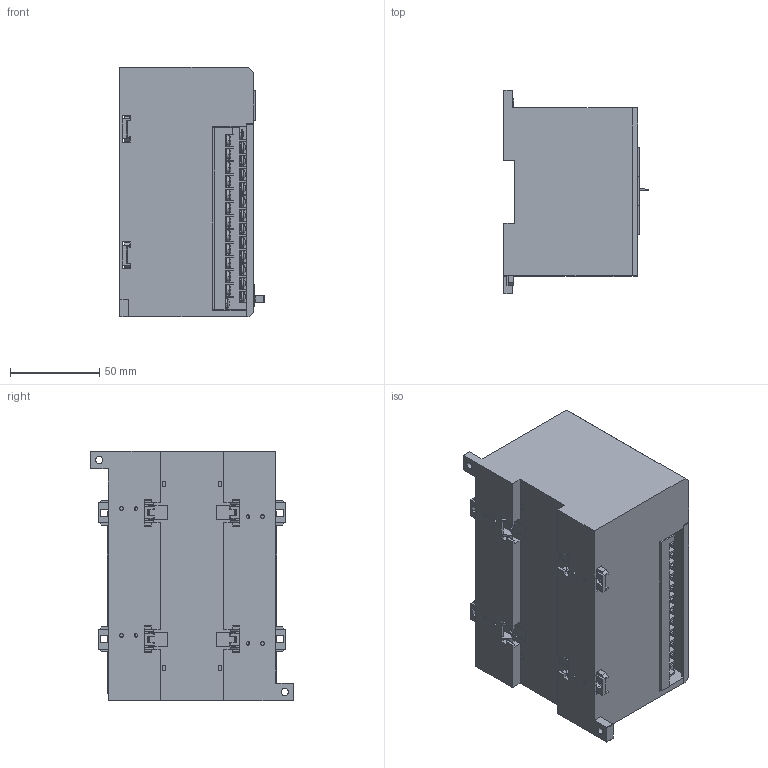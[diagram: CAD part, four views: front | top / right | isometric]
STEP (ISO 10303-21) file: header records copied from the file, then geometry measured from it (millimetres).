
FILE_DESCRIPTION (( 'STEP AP214' ), '1' );
FILE_NAME ('3D ìîäåëü ÏËÊ110-30_M02.STEP', '2016-07-19T20:22:33', ( '' ), ( '' ), 'SwSTEP 2.0', 'SolidWorks 2011', '' );
FILE_SCHEMA (( 'AUTOMOTIVE_DESIGN' ));
Length unit declared in the file: millimetre
Products named in the file (15): 3D ìîäåëü ÏËÊ110-30_M02; USB A; Ïåðåêëþ÷àòåëü; Êðûøêà ïðîçðà÷íàÿ ÏËÊ110-30_Ì02_í; RS-232_DEBUG; Êðûøêà ïðîçðà÷íàÿ ÏËÊ110-30_Ì02; ﾔ韭ﾌ02_00; Ethernet; USB ðîçåòêà; Ñáîðêà êëåììíàÿ êîëîäêà; pan head cross recess screw_iso_ISO 7045 - M3 x 20 - Z --- 20N; pan head cross recess screw_iso_ISO 7045 - M3 x 10 - Z --- 10N; Øàéáà êâàäðàòíàÿ Ì3; Êëåììíàÿ êîëîäêà; Êîðïóñ ÏËÊ110-30_Ì02
Assembly tree (66 placements, depth 3):
  3D ìîäåëü ÏËÊ110-30_M02
    Êîðïóñ ÏËÊ110-30_Ì02
    Ñáîðêà êëåììíàÿ êîëîäêà  x2
      Êëåììíàÿ êîëîäêà
      Øàéáà êâàäðàòíàÿ Ì3
      pan head cross recess screw_iso_ISO 7045 - M3 x 10 - Z --- 10N
      pan head cross recess screw_iso_ISO 7045 - M3 x 20 - Z --- 20N
    USB ðîçåòêà
    Ethernet
    ﾔ韭ﾌ02_00  x4
    Êðûøêà ïðîçðà÷íàÿ ÏËÊ110-30_Ì02
    RS-232_DEBUG  x2
    Êðûøêà ïðîçðà÷íàÿ ÏËÊ110-30_Ì02_í
    Ïåðåêëþ÷àòåëü
    USB A
Bounding box: 81 x 114 x 140 mm (x, y, z)
Volume: 966117.4 mm3; surface area: 145513.6 mm2
Topology: 115 solids, 115 shells, 6387 faces, 16023 edges, 10169 vertices
Faces by surface type: plane 3911, bspline 848, cylinder 742, cone 574, torus 208, sphere 104
Entity records: 132864 total; most frequent: CARTESIAN_POINT 28771, ORIENTED_EDGE 17200, DIRECTION 12284, EDGE_CURVE 8600, LINE 6440, VECTOR 6440, VERTEX_POINT 5689, EDGE_LOOP 3641
